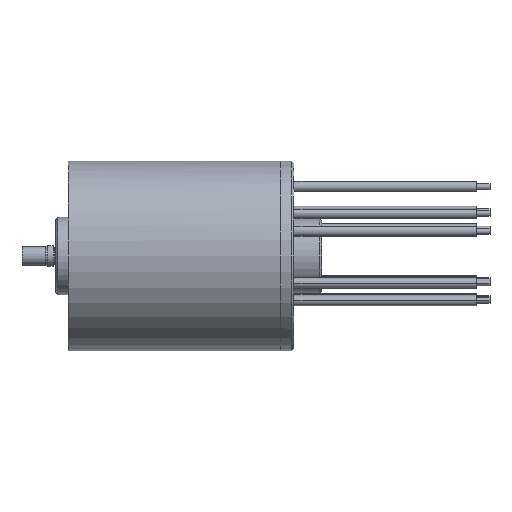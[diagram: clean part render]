
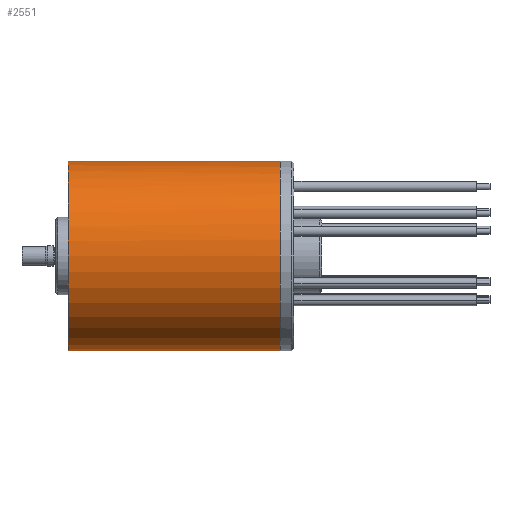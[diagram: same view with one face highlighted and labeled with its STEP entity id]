
A CAD part, left-side view. The second image highlights one B-rep face of the part: STEP entity #2551.
In plain terms, the highlighted cylindrical face has radius 14 mm (diameter 28 mm), a partial arc.
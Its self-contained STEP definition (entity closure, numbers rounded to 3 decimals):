
#450=CARTESIAN_POINT('',(0.,0.3,0.));
#451=DIRECTION('',(0.,1.,0.));
#452=DIRECTION('',(0.,0.,1.));
#453=AXIS2_PLACEMENT_3D('',#450,#451,#452);
#455=CARTESIAN_POINT('',(0.,0.3,0.));
#456=DIRECTION('',(0.,1.,0.));
#457=DIRECTION('',(1.,0.,0.));
#458=AXIS2_PLACEMENT_3D('',#455,#456,#457);
#460=DIRECTION('',(0.,1.,0.));
#461=VECTOR('',#460,31.3);
#462=CARTESIAN_POINT('',(-0.179,2.,-13.999));
#463=LINE('',#462,#461);
#464=DIRECTION('',(0.,-1.,0.));
#465=VECTOR('',#464,31.3);
#466=CARTESIAN_POINT('',(0.179,33.3,13.999));
#467=LINE('',#466,#465);
#468=CARTESIAN_POINT('',(0.,2.,0.));
#469=DIRECTION('',(0.,1.,0.));
#470=DIRECTION('',(0.013,0.,1.));
#471=AXIS2_PLACEMENT_3D('',#468,#469,#470);
#473=CARTESIAN_POINT('',(0.,2.,0.));
#474=DIRECTION('',(0.,1.,0.));
#475=DIRECTION('',(1.,0.,0.));
#476=AXIS2_PLACEMENT_3D('',#473,#474,#475);
#478=DIRECTION('',(0.,-1.,0.));
#479=VECTOR('',#478,1.7);
#480=CARTESIAN_POINT('',(0.,2.,-14.));
#481=LINE('',#480,#479);
#482=CARTESIAN_POINT('',(0.,2.,0.));
#483=DIRECTION('',(0.,-1.,0.));
#484=DIRECTION('',(0.,0.,1.));
#485=AXIS2_PLACEMENT_3D('',#482,#483,#484);
#487=CARTESIAN_POINT('',(0.,2.,0.));
#488=DIRECTION('',(0.,-1.,0.));
#489=DIRECTION('',(-1.,0.,0.));
#490=AXIS2_PLACEMENT_3D('',#487,#488,#489);
#492=DIRECTION('',(0.,-1.,0.));
#493=VECTOR('',#492,1.7);
#494=CARTESIAN_POINT('',(0.,2.,14.));
#495=LINE('',#494,#493);
#496=CARTESIAN_POINT('',(0.,33.3,0.));
#497=DIRECTION('',(0.,-1.,0.));
#498=DIRECTION('',(0.013,0.,1.));
#499=AXIS2_PLACEMENT_3D('',#496,#497,#498);
#501=CARTESIAN_POINT('',(0.,33.3,0.));
#502=DIRECTION('',(0.,-1.,0.));
#503=DIRECTION('',(-1.,0.,0.));
#504=AXIS2_PLACEMENT_3D('',#501,#502,#503);
#1908=CARTESIAN_POINT('',(0.,0.3,-14.));
#1909=VERTEX_POINT('',#1908);
#1912=CARTESIAN_POINT('',(0.,0.3,14.));
#1913=VERTEX_POINT('',#1912);
#1914=CARTESIAN_POINT('',(14.,0.3,0.));
#1915=VERTEX_POINT('',#1914);
#1916=CARTESIAN_POINT('',(-0.179,2.,-13.999));
#1917=CARTESIAN_POINT('',(-0.179,33.3,-13.999));
#1918=VERTEX_POINT('',#1916);
#1919=VERTEX_POINT('',#1917);
#1920=CARTESIAN_POINT('',(-14.,33.3,0.));
#1921=VERTEX_POINT('',#1920);
#1922=CARTESIAN_POINT('',(0.179,33.3,13.999));
#1923=VERTEX_POINT('',#1922);
#1924=CARTESIAN_POINT('',(0.179,2.,13.999));
#1925=VERTEX_POINT('',#1924);
#1926=CARTESIAN_POINT('',(14.,2.,0.));
#1927=CARTESIAN_POINT('',(0.,2.,-14.));
#1928=VERTEX_POINT('',#1926);
#1929=VERTEX_POINT('',#1927);
#1930=CARTESIAN_POINT('',(0.,2.,14.));
#1931=VERTEX_POINT('',#1930);
#1932=CARTESIAN_POINT('',(-14.,2.,0.));
#1933=VERTEX_POINT('',#1932);
#2522=CARTESIAN_POINT('',(0.,0.,0.));
#2523=DIRECTION('',(0.,-1.,0.));
#2524=DIRECTION('',(-1.,0.,0.));
#2525=AXIS2_PLACEMENT_3D('',#2522,#2523,#2524);
#2526=CYLINDRICAL_SURFACE('',#2525,14.);
#2528=ORIENTED_EDGE('',*,*,#2527,.T.);
#2530=ORIENTED_EDGE('',*,*,#2529,.F.);
#2532=ORIENTED_EDGE('',*,*,#2531,.F.);
#2534=ORIENTED_EDGE('',*,*,#2533,.T.);
#2536=ORIENTED_EDGE('',*,*,#2535,.T.);
#2538=ORIENTED_EDGE('',*,*,#2537,.T.);
#2540=ORIENTED_EDGE('',*,*,#2539,.T.);
#2541=ORIENTED_EDGE('',*,*,#2517,.F.);
#2542=ORIENTED_EDGE('',*,*,#2515,.F.);
#2544=ORIENTED_EDGE('',*,*,#2543,.F.);
#2546=ORIENTED_EDGE('',*,*,#2545,.T.);
#2548=ORIENTED_EDGE('',*,*,#2547,.T.);
#2549=EDGE_LOOP('',(#2528,#2530,#2532,#2534,#2536,#2538,#2540,#2541,#2542,#2544,
#2546,#2548));
#2550=FACE_OUTER_BOUND('',#2549,.F.);
#2551=ADVANCED_FACE('',(#2550),#2526,.T.);
#454=CIRCLE('',#453,14.);
#459=CIRCLE('',#458,14.);
#472=CIRCLE('',#471,14.);
#477=CIRCLE('',#476,14.);
#486=CIRCLE('',#485,14.);
#491=CIRCLE('',#490,14.);
#500=CIRCLE('',#499,14.);
#505=CIRCLE('',#504,14.);
#2515=EDGE_CURVE('',#1913,#1915,#454,.T.);
#2517=EDGE_CURVE('',#1915,#1909,#459,.T.);
#2527=EDGE_CURVE('',#1918,#1919,#463,.T.);
#2529=EDGE_CURVE('',#1921,#1919,#505,.T.);
#2531=EDGE_CURVE('',#1923,#1921,#500,.T.);
#2533=EDGE_CURVE('',#1923,#1925,#467,.T.);
#2535=EDGE_CURVE('',#1925,#1928,#472,.T.);
#2537=EDGE_CURVE('',#1928,#1929,#477,.T.);
#2539=EDGE_CURVE('',#1929,#1909,#481,.T.);
#2543=EDGE_CURVE('',#1931,#1913,#495,.T.);
#2545=EDGE_CURVE('',#1931,#1933,#486,.T.);
#2547=EDGE_CURVE('',#1933,#1918,#491,.T.);
